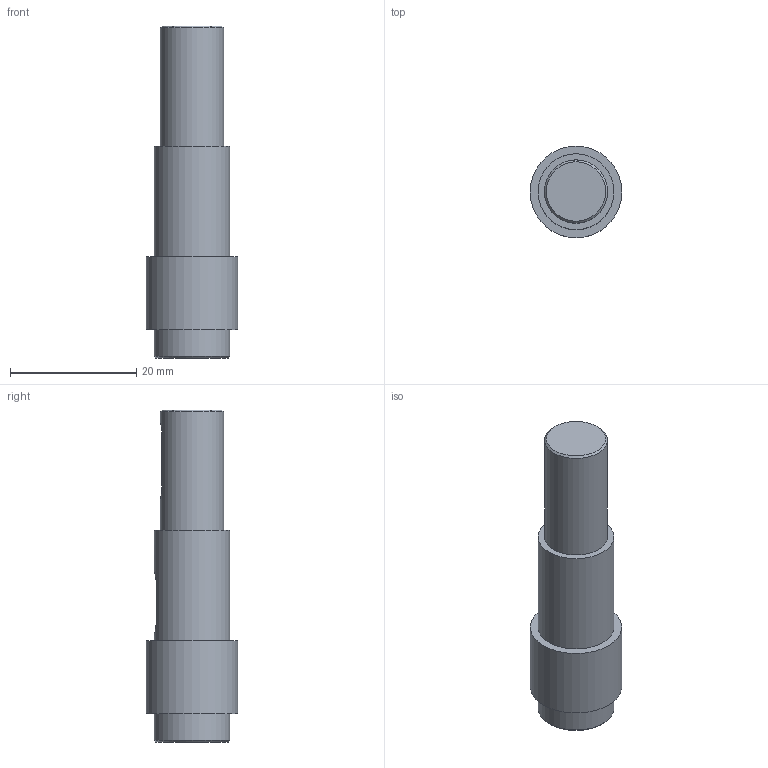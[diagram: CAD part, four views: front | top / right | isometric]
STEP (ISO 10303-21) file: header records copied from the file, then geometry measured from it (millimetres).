
FILE_DESCRIPTION(('Open CASCADE Model'),'2;1');
FILE_NAME('09_Shaft_Output','2026-10-20T19:44:38',('Author'),( 'Open CASCADE'),'Open CASCADE STEP processor 8.0','build123d', 'Unknown');
FILE_SCHEMA(('AUTOMOTIVE_DESIGN { 1 0 10303 214 1 1 1 1 }'));
Length unit declared in the file: millimetre
Products named in the file (2): 09_Shaft_Output
Assembly tree (1 placements, depth 2):
  09_Shaft_Output
    09_Shaft_Output
Bounding box: 14.5 x 14.5 x 52.5 mm (x, y, z)
Volume: 5729.8 mm3; surface area: 2366.2 mm2
Topology: 1 solids, 1 shells, 21 faces, 40 edges, 26 vertices
Faces by surface type: plane 11, cylinder 8, cone 2
Full cylindrical faces by diameter (mm): 10 x1, 12 x2, 14.5 x1
Entity records: 1518 total; most frequent: CARTESIAN_POINT 643, DIRECTION 152, ORIENTED_EDGE 80, PCURVE 80, DEFINITIONAL_REPRESENTATION 80, LINE 70, VECTOR 70, EDGE_CURVE 40
